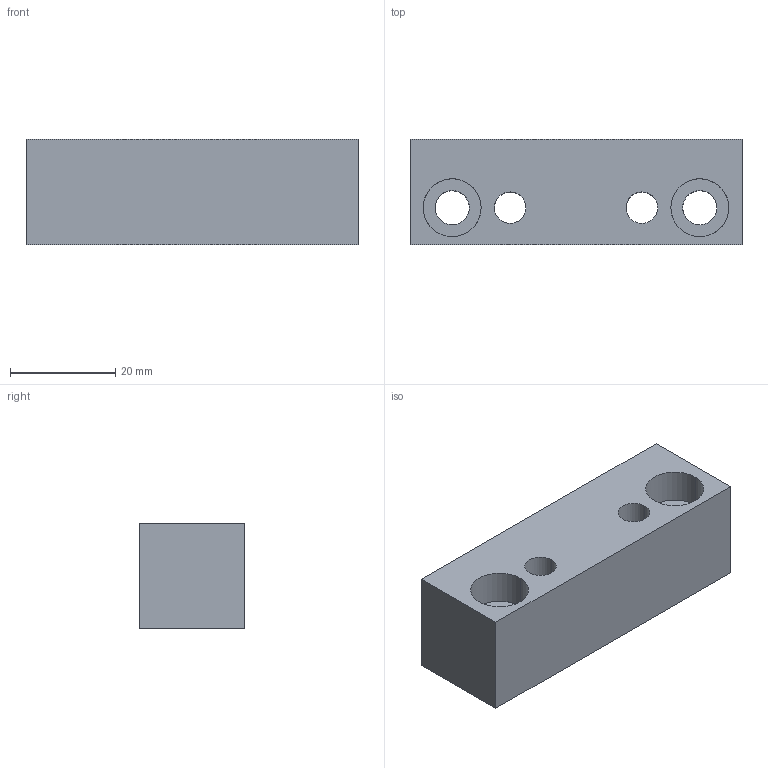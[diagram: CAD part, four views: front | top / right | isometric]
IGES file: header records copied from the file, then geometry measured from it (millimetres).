
Start section: START RECORD GO HERE.
Global section: file name: G40520063.igs; native system: DASSAULT SYSTEMES CATIA V5 R20 - www.3ds.com; preprocessor: CATIA Version 5 Release 20 ; author: r.borello; organization: CFTORINO; date: 20190624.150106; units: millimetre
Bounding box: 63 x 20 x 20 mm (x, y, z)
Surface area: 9286.8 mm2 (no closed solid volume)
Topology: 0 solids, 0 shells, 222 faces, 948 edges, 856 vertices
Faces by surface type: revolution 192, plane 30
